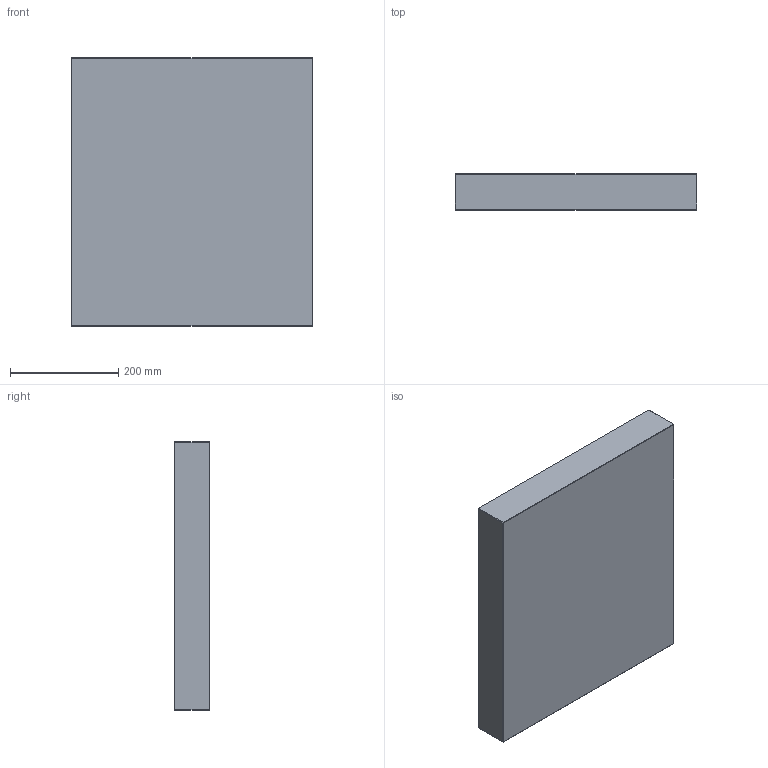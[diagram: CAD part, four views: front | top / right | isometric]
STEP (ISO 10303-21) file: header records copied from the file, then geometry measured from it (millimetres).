
FILE_DESCRIPTION (( 'STEP AP214' ), '1' );
FILE_NAME ('PC-P-446x496x66.STEP', '2020-04-01T11:12:45', ( 'August' ), ( '' ), 'SwSTEP 2.0', 'SolidWorks 2018', '' );
FILE_SCHEMA (( 'AUTOMOTIVE_DESIGN' ));
Length unit declared in the file: millimetre
Products named in the file (1): PC-P-446x496x66
Bounding box: 446 x 66 x 496 mm (x, y, z)
Volume: 14598245.3 mm3; surface area: 564411.1 mm2
Topology: 1 solids, 1 shells, 26 faces, 48 edges, 24 vertices
Faces by surface type: plane 26
Entity records: 634 total; most frequent: DIRECTION 102, CARTESIAN_POINT 99, ORIENTED_EDGE 96, VECTOR 48, EDGE_CURVE 48, LINE 48, AXIS2_PLACEMENT_3D 27, FACE_OUTER_BOUND 26
